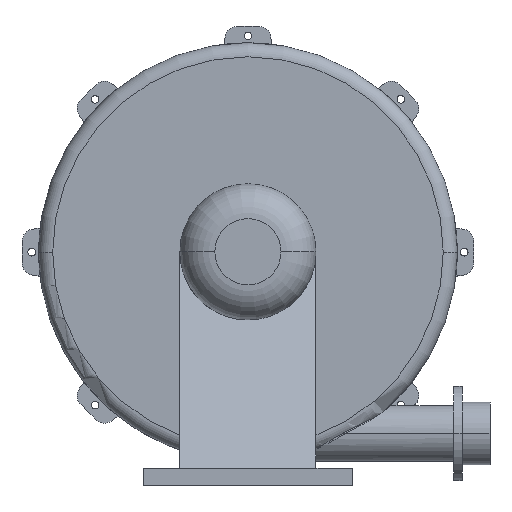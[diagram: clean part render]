
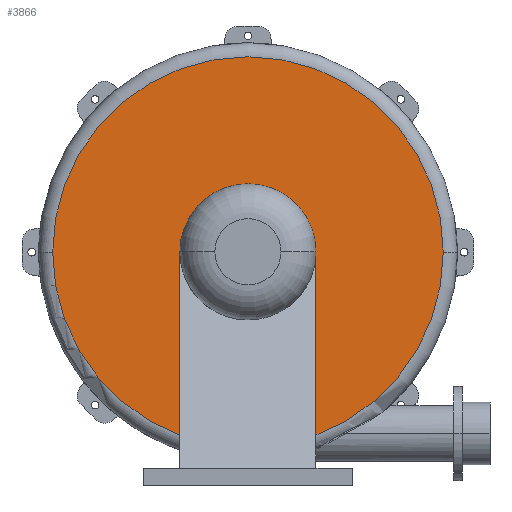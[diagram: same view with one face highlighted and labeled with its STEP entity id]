
A CAD part, top view. The second image highlights one B-rep face of the part: STEP entity #3866.
In plain terms, the highlighted planar face has unit normal (0, 0, 1).
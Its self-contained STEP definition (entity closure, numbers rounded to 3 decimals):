
#50 = CARTESIAN_POINT ( 'NONE',  ( 0., 0., 45. ) ) ;
#250 = DIRECTION ( 'NONE',  ( 0., 0., 1. ) ) ;
#348 = ORIENTED_EDGE ( 'NONE', *, *, #774, .T. ) ;
#410 = PLANE ( 'NONE',  #4604 ) ;
#429 = CIRCLE ( 'NONE', #3788, 280. ) ;
#472 = EDGE_CURVE ( 'NONE', #588, #490, #3376, .T. ) ;
#490 = VERTEX_POINT ( 'NONE', #1568 ) ;
#588 = VERTEX_POINT ( 'NONE', #1602 ) ;
#652 = EDGE_CURVE ( 'NONE', #3731, #588, #1998, .T. ) ;
#718 = EDGE_CURVE ( 'NONE', #2833, #490, #924, .T. ) ;
#746 = EDGE_CURVE ( 'NONE', #3731, #1715, #3661, .T. ) ;
#758 = DIRECTION ( 'NONE',  ( 1., 0., 0. ) ) ;
#774 = EDGE_CURVE ( 'NONE', #2187, #2833, #815, .T. ) ;
#815 = CIRCLE ( 'NONE', #4486, 280. ) ;
#924 = LINE ( 'NONE', #2016, #2720 ) ;
#1045 = VECTOR ( 'NONE', #3364, 1000. ) ;
#1052 = CARTESIAN_POINT ( 'NONE',  ( 0., 0., 45. ) ) ;
#1171 = ORIENTED_EDGE ( 'NONE', *, *, #652, .F. ) ;
#1260 = EDGE_LOOP ( 'NONE', ( #3921, #1171, #2143, #3062, #348, #1274 ) ) ;
#1274 = ORIENTED_EDGE ( 'NONE', *, *, #718, .T. ) ;
#1285 = CARTESIAN_POINT ( 'NONE',  ( 0., 0., 45. ) ) ;
#1404 = DIRECTION ( 'NONE',  ( 1., 0., 0. ) ) ;
#1568 = CARTESIAN_POINT ( 'NONE',  ( -97.5, 0., 45. ) ) ;
#1602 = CARTESIAN_POINT ( 'NONE',  ( 97.5, 0., 45. ) ) ;
#1630 = DIRECTION ( 'NONE',  ( 0., 1., 0. ) ) ;
#1648 = DIRECTION ( 'NONE',  ( 1., 0., 0. ) ) ;
#1715 = VERTEX_POINT ( 'NONE', #3466 ) ;
#1950 = DIRECTION ( 'NONE',  ( 0., 0., 1. ) ) ;
#1998 = LINE ( 'NONE', #3405, #1045 ) ;
#2016 = CARTESIAN_POINT ( 'NONE',  ( -97.5, 0., 45. ) ) ;
#2116 = FACE_OUTER_BOUND ( 'NONE', #1260, .T. ) ;
#2143 = ORIENTED_EDGE ( 'NONE', *, *, #746, .T. ) ;
#2187 = VERTEX_POINT ( 'NONE', #4129 ) ;
#2378 = CARTESIAN_POINT ( 'NONE',  ( 0., 0., 45. ) ) ;
#2601 = CARTESIAN_POINT ( 'NONE',  ( -97.5, -262.476, 45. ) ) ;
#2720 = VECTOR ( 'NONE', #1630, 1000. ) ;
#2746 = DIRECTION ( 'NONE',  ( 1., 0., 0. ) ) ;
#2833 = VERTEX_POINT ( 'NONE', #2601 ) ;
#2914 = DIRECTION ( 'NONE',  ( 0., 0., 1. ) ) ;
#3062 = ORIENTED_EDGE ( 'NONE', *, *, #4478, .T. ) ;
#3364 = DIRECTION ( 'NONE',  ( 0., 1., 0. ) ) ;
#3376 = CIRCLE ( 'NONE', #4633, 97.5 ) ;
#3405 = CARTESIAN_POINT ( 'NONE',  ( 97.5, 0., 45. ) ) ;
#3466 = CARTESIAN_POINT ( 'NONE',  ( 280., 0., 45. ) ) ;
#3543 = DIRECTION ( 'NONE',  ( 0., 0., 1. ) ) ;
#3661 = CIRCLE ( 'NONE', #4506, 280. ) ;
#3731 = VERTEX_POINT ( 'NONE', #4597 ) ;
#3788 = AXIS2_PLACEMENT_3D ( 'NONE', #1052, #3543, #1404 ) ;
#3791 = DIRECTION ( 'NONE',  ( 0., 0., 1. ) ) ;
#3866 = ADVANCED_FACE ( 'NONE', ( #2116 ), #410, .T. ) ;
#3921 = ORIENTED_EDGE ( 'NONE', *, *, #472, .F. ) ;
#4091 = CARTESIAN_POINT ( 'NONE',  ( 0., 0., 45. ) ) ;
#4129 = CARTESIAN_POINT ( 'NONE',  ( -280., 0., 45. ) ) ;
#4437 = DIRECTION ( 'NONE',  ( 1., 0., 0. ) ) ;
#4478 = EDGE_CURVE ( 'NONE', #1715, #2187, #429, .T. ) ;
#4486 = AXIS2_PLACEMENT_3D ( 'NONE', #2378, #250, #2746 ) ;
#4506 = AXIS2_PLACEMENT_3D ( 'NONE', #1285, #3791, #1648 ) ;
#4597 = CARTESIAN_POINT ( 'NONE',  ( 97.5, -262.476, 45. ) ) ;
#4604 = AXIS2_PLACEMENT_3D ( 'NONE', #50, #2914, #758 ) ;
#4633 = AXIS2_PLACEMENT_3D ( 'NONE', #4091, #1950, #4437 ) ;
